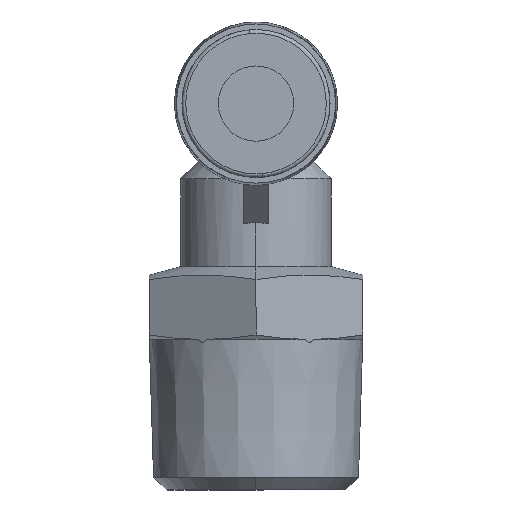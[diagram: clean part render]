
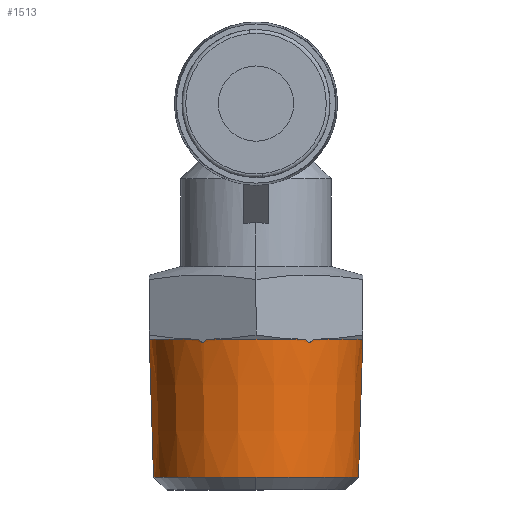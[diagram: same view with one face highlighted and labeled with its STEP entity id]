
A CAD part, left-side view. The second image highlights one B-rep face of the part: STEP entity #1513.
In plain terms, the highlighted conical face has half-angle 1.79 degrees and reference radius 8.508 mm.
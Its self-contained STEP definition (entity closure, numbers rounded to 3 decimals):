
#36 = DIRECTION ( 'NONE',  ( 0., 0., 1. ) ) ;
#38 = ORIENTED_EDGE ( 'NONE', *, *, #2111, .F. ) ;
#65 = CARTESIAN_POINT ( 'NONE',  ( -7.288, -4.376, 11.791 ) ) ;
#84 = DIRECTION ( 'NONE',  ( 0., -0.031, 1. ) ) ;
#150 = AXIS2_PLACEMENT_3D ( 'NONE', #745, #36, #648 ) ;
#154 = DIRECTION ( 'NONE',  ( 1., 0., 0. ) ) ;
#215 = CARTESIAN_POINT ( 'NONE',  ( 0., -8.5, 11.758 ) ) ;
#222 = EDGE_CURVE ( 'NONE', #2498, #1742, #2799, .T. ) ;
#257 = AXIS2_PLACEMENT_3D ( 'NONE', #3531, #645, #1923 ) ;
#297 = EDGE_CURVE ( 'NONE', #1009, #467, #443, .T. ) ;
#333 = FACE_OUTER_BOUND ( 'NONE', #1045, .T. ) ;
#360 = VERTEX_POINT ( 'NONE', #1129 ) ;
#437 = DIRECTION ( 'NONE',  ( 0., 0., -1. ) ) ;
#443 = B_SPLINE_CURVE_WITH_KNOTS ( 'NONE', 3,
 ( #3048, #2146, #3223, #2206, #2716, #2722, #2759, #1512, #2551, #1677 ),
 .UNSPECIFIED., .F., .F.,
 ( 4, 2, 2, 2, 4 ),
 ( 0., 0., 0., 0.001, 0.001 ),
 .UNSPECIFIED. ) ;
#467 = VERTEX_POINT ( 'NONE', #1968 ) ;
#470 = DIRECTION ( 'NONE',  ( 0., 0.031, 1. ) ) ;
#473 = DIRECTION ( 'NONE',  ( 0., 0., -1. ) ) ;
#497 = CARTESIAN_POINT ( 'NONE',  ( 0., 8.508, 12. ) ) ;
#511 = CIRCLE ( 'NONE', #553, 8.508 ) ;
#553 = AXIS2_PLACEMENT_3D ( 'NONE', #1626, #437, #154 ) ;
#573 = EDGE_CURVE ( 'NONE', #360, #1702, #1952, .T. ) ;
#621 = VERTEX_POINT ( 'NONE', #215 ) ;
#645 = DIRECTION ( 'NONE',  ( 0., 0., 1. ) ) ;
#648 = DIRECTION ( 'NONE',  ( -0.998, 0.065, 0. ) ) ;
#745 = CARTESIAN_POINT ( 'NONE',  ( 0., 0., 1.014 ) ) ;
#747 = EDGE_CURVE ( 'NONE', #467, #1652, #511, .T. ) ;
#792 = ORIENTED_EDGE ( 'NONE', *, *, #1196, .F. ) ;
#825 = VECTOR ( 'NONE', #470, 1000. ) ;
#906 = CARTESIAN_POINT ( 'NONE',  ( -7.518, -3.978, 11.94 ) ) ;
#944 = EDGE_CURVE ( 'NONE', #1702, #621, #1587, .T. ) ;
#953 = ORIENTED_EDGE ( 'NONE', *, *, #1759, .T. ) ;
#1009 = VERTEX_POINT ( 'NONE', #2566 ) ;
#1031 = ORIENTED_EDGE ( 'NONE', *, *, #573, .T. ) ;
#1045 = EDGE_LOOP ( 'NONE', ( #1051, #953, #1031, #3204, #38, #3558, #2509, #2356, #1409, #3025, #792 ) ) ;
#1051 = ORIENTED_EDGE ( 'NONE', *, *, #1804, .F. ) ;
#1129 = CARTESIAN_POINT ( 'NONE',  ( -8.164, 0., 1.014 ) ) ;
#1196 = EDGE_CURVE ( 'NONE', #3272, #1652, #2833, .T. ) ;
#1333 = CARTESIAN_POINT ( 'NONE',  ( -7.204, -4.522, 11.94 ) ) ;
#1368 = CARTESIAN_POINT ( 'NONE',  ( -7.182, -4.561, 12. ) ) ;
#1372 = AXIS2_PLACEMENT_3D ( 'NONE', #2723, #2968, #2985 ) ;
#1409 = ORIENTED_EDGE ( 'NONE', *, *, #297, .T. ) ;
#1498 = DIRECTION ( 'NONE',  ( -0.998, 0.065, 0. ) ) ;
#1512 = CARTESIAN_POINT ( 'NONE',  ( -7.229, 4.479, 11.883 ) ) ;
#1513 = ADVANCED_FACE ( '90', ( #333 ), #3411, .T. ) ;
#1586 = AXIS2_PLACEMENT_3D ( 'NONE', #3046, #2752, #2745 ) ;
#1587 = LINE ( 'NONE', #2273, #2338 ) ;
#1589 = CARTESIAN_POINT ( 'NONE',  ( -0.359, -8.5, 12. ) ) ;
#1626 = CARTESIAN_POINT ( 'NONE',  ( 0., 0., 12. ) ) ;
#1652 = VERTEX_POINT ( 'NONE', #3546 ) ;
#1677 = CARTESIAN_POINT ( 'NONE',  ( -7.182, 4.561, 12. ) ) ;
#1702 = VERTEX_POINT ( 'NONE', #3341 ) ;
#1742 = VERTEX_POINT ( 'NONE', #1368 ) ;
#1756 = EDGE_CURVE ( 'NONE', #3032, #1742, #3399, .T. ) ;
#1759 = EDGE_CURVE ( 'NONE', #3488, #360, #3239, .T. ) ;
#1804 = EDGE_CURVE ( 'NONE', #3488, #3272, #2429, .T. ) ;
#1806 = CARTESIAN_POINT ( 'NONE',  ( -7.182, -4.561, 12. ) ) ;
#1856 = CARTESIAN_POINT ( 'NONE',  ( 0., 8.5, 11.758 ) ) ;
#1888 = CARTESIAN_POINT ( 'NONE',  ( -7.324, -4.314, 11.758 ) ) ;
#1891 = B_SPLINE_CURVE_WITH_KNOTS ( 'NONE', 3,
 ( #3600, #3530, #3470, #2090, #2057, #3447 ),
 .UNSPECIFIED., .F., .F.,
 ( 4, 2, 4 ),
 ( 0., 0., 0. ),
 .UNSPECIFIED. ) ;
#1923 = DIRECTION ( 'NONE',  ( 0., -1., 0. ) ) ;
#1952 = CIRCLE ( 'NONE', #1586, 8.164 ) ;
#1968 = CARTESIAN_POINT ( 'NONE',  ( -7.182, 4.561, 12. ) ) ;
#2057 = CARTESIAN_POINT ( 'NONE',  ( -0.075, -8.5, 11.758 ) ) ;
#2090 = CARTESIAN_POINT ( 'NONE',  ( -0.147, -8.5, 11.792 ) ) ;
#2111 = EDGE_CURVE ( 'NONE', #2498, #621, #1891, .T. ) ;
#2123 = CARTESIAN_POINT ( 'NONE',  ( 0., 8.164, 1.014 ) ) ;
#2146 = CARTESIAN_POINT ( 'NONE',  ( -7.518, 3.978, 11.94 ) ) ;
#2185 = CIRCLE ( 'NONE', #1372, 8.508 ) ;
#2206 = CARTESIAN_POINT ( 'NONE',  ( -7.435, 4.122, 11.793 ) ) ;
#2213 = AXIS2_PLACEMENT_3D ( 'NONE', #2852, #473, #1498 ) ;
#2250 = CARTESIAN_POINT ( 'NONE',  ( -7.541, -3.939, 12. ) ) ;
#2273 = CARTESIAN_POINT ( 'NONE',  ( 0., -8.508, 12. ) ) ;
#2338 = VECTOR ( 'NONE', #84, 1000. ) ;
#2356 = ORIENTED_EDGE ( 'NONE', *, *, #2386, .T. ) ;
#2386 = EDGE_CURVE ( 'NONE', #3032, #1009, #2185, .T. ) ;
#2429 = LINE ( 'NONE', #497, #825 ) ;
#2432 = CARTESIAN_POINT ( 'NONE',  ( -7.399, -4.184, 11.758 ) ) ;
#2490 = CARTESIAN_POINT ( 'NONE',  ( -0.359, 8.5, 12. ) ) ;
#2498 = VERTEX_POINT ( 'NONE', #1589 ) ;
#2509 = ORIENTED_EDGE ( 'NONE', *, *, #1756, .F. ) ;
#2510 = CARTESIAN_POINT ( 'NONE',  ( -0.314, 8.5, 11.94 ) ) ;
#2531 = CARTESIAN_POINT ( 'NONE',  ( -0.264, 8.5, 11.883 ) ) ;
#2551 = CARTESIAN_POINT ( 'NONE',  ( -7.204, 4.522, 11.94 ) ) ;
#2566 = CARTESIAN_POINT ( 'NONE',  ( -7.541, 3.939, 12. ) ) ;
#2716 = CARTESIAN_POINT ( 'NONE',  ( -7.399, 4.184, 11.758 ) ) ;
#2722 = CARTESIAN_POINT ( 'NONE',  ( -7.324, 4.314, 11.758 ) ) ;
#2723 = CARTESIAN_POINT ( 'NONE',  ( 0., 0., 12. ) ) ;
#2745 = DIRECTION ( 'NONE',  ( -0.998, 0.065, 0. ) ) ;
#2752 = DIRECTION ( 'NONE',  ( 0., 0., 1. ) ) ;
#2759 = CARTESIAN_POINT ( 'NONE',  ( -7.288, 4.376, 11.791 ) ) ;
#2799 = CIRCLE ( 'NONE', #2213, 8.508 ) ;
#2833 = B_SPLINE_CURVE_WITH_KNOTS ( 'NONE', 3,
 ( #3027, #3331, #3467, #2531, #2510, #2490 ),
 .UNSPECIFIED., .F., .F.,
 ( 4, 2, 4 ),
 ( 0., 0.001, 0.001 ),
 .UNSPECIFIED. ) ;
#2852 = CARTESIAN_POINT ( 'NONE',  ( 0., 0., 12. ) ) ;
#2912 = CARTESIAN_POINT ( 'NONE',  ( -7.229, -4.479, 11.883 ) ) ;
#2968 = DIRECTION ( 'NONE',  ( 0., 0., -1. ) ) ;
#2985 = DIRECTION ( 'NONE',  ( -0.998, 0.065, 0. ) ) ;
#3025 = ORIENTED_EDGE ( 'NONE', *, *, #747, .T. ) ;
#3027 = CARTESIAN_POINT ( 'NONE',  ( 0., 8.5, 11.758 ) ) ;
#3032 = VERTEX_POINT ( 'NONE', #2250 ) ;
#3046 = CARTESIAN_POINT ( 'NONE',  ( 0., 0., 1.014 ) ) ;
#3048 = CARTESIAN_POINT ( 'NONE',  ( -7.541, 3.939, 12. ) ) ;
#3204 = ORIENTED_EDGE ( 'NONE', *, *, #944, .T. ) ;
#3223 = CARTESIAN_POINT ( 'NONE',  ( -7.494, 4.02, 11.884 ) ) ;
#3239 = CIRCLE ( 'NONE', #150, 8.164 ) ;
#3272 = VERTEX_POINT ( 'NONE', #1856 ) ;
#3331 = CARTESIAN_POINT ( 'NONE',  ( -0.075, 8.5, 11.758 ) ) ;
#3341 = CARTESIAN_POINT ( 'NONE',  ( 0., -8.164, 1.014 ) ) ;
#3399 = B_SPLINE_CURVE_WITH_KNOTS ( 'NONE', 3,
 ( #3556, #906, #3483, #3497, #2432, #1888, #65, #2912, #1333, #1806 ),
 .UNSPECIFIED., .F., .F.,
 ( 4, 2, 2, 2, 4 ),
 ( 0., 0., 0., 0.001, 0.001 ),
 .UNSPECIFIED. ) ;
#3411 = CONICAL_SURFACE ( 'NONE', #257, 8.508, 0.031 ) ;
#3447 = CARTESIAN_POINT ( 'NONE',  ( 0., -8.5, 11.758 ) ) ;
#3467 = CARTESIAN_POINT ( 'NONE',  ( -0.146, 8.5, 11.792 ) ) ;
#3470 = CARTESIAN_POINT ( 'NONE',  ( -0.265, -8.5, 11.884 ) ) ;
#3483 = CARTESIAN_POINT ( 'NONE',  ( -7.494, -4.02, 11.884 ) ) ;
#3488 = VERTEX_POINT ( 'NONE', #2123 ) ;
#3497 = CARTESIAN_POINT ( 'NONE',  ( -7.435, -4.122, 11.793 ) ) ;
#3530 = CARTESIAN_POINT ( 'NONE',  ( -0.314, -8.5, 11.94 ) ) ;
#3531 = CARTESIAN_POINT ( 'NONE',  ( 0., 0., 12. ) ) ;
#3546 = CARTESIAN_POINT ( 'NONE',  ( -0.359, 8.5, 12. ) ) ;
#3556 = CARTESIAN_POINT ( 'NONE',  ( -7.541, -3.939, 12. ) ) ;
#3558 = ORIENTED_EDGE ( 'NONE', *, *, #222, .T. ) ;
#3600 = CARTESIAN_POINT ( 'NONE',  ( -0.359, -8.5, 12. ) ) ;
